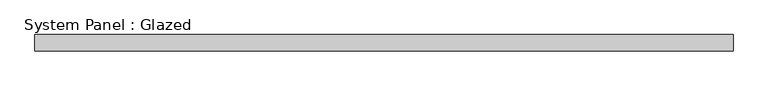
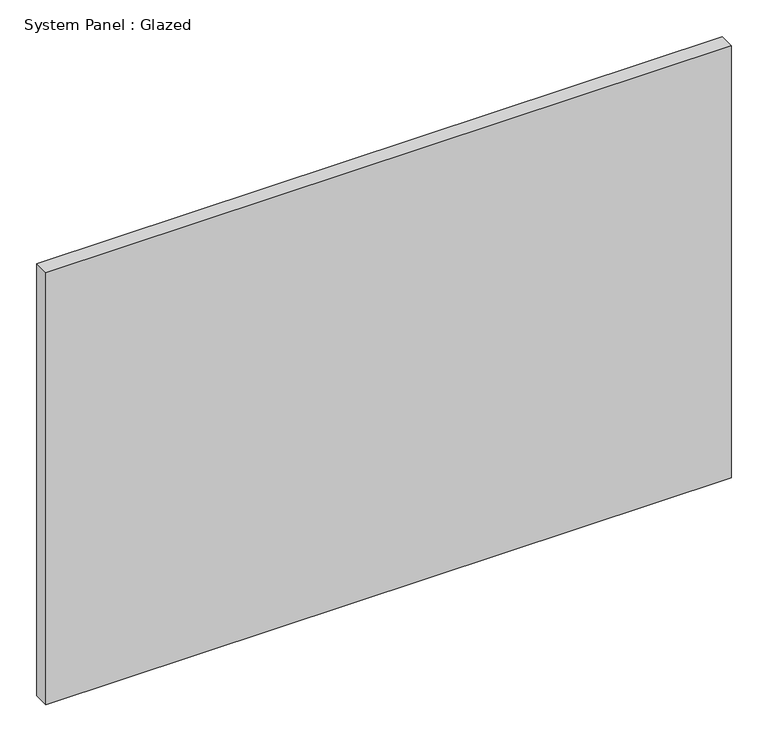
"""IFC4 building model written with IfcOpenShell, lengths in millimetres: plate geometry, System Panel : Glazed."""

from ifc_helpers import new_model, si_unit, origin, origin_with_axes, place, context, project, spatial, polyline, outline, extrude, source, transform, mapped, element, save


def system_panel_glazed_d5e78176(model_context):
    return source(origin(), model_context, "Body", "SweptSolid", [
        extrude(outline(polyline([(541.655, -44.45), (-541.655, -44.45), (-541.655, -19.05), (541.655, -19.05), (541.655, -44.45)])), origin_with_axes(), (0.0, 0.0, 1.0), 721.8891834),
    ])


if __name__ == "__main__":
    model = new_model("IFC4")
    model_context = context("Model", 3, world=origin())
    ifc_project = project(units=[si_unit("LENGTHUNIT", "METRE", prefix="MILLI")], contexts=[model_context])
    site = spatial("IfcSite", under=ifc_project)
    building = spatial("IfcBuilding", under=site)
    placement = place(None, origin())
    system_panel_glazed_shape = system_panel_glazed_d5e78176(model_context)
    element("IfcPlate", 1, ObjectType="System Panel : Glazed", at=placement, inside=building, context=model_context, shape_type="MappedRepresentation", body=[
        mapped(system_panel_glazed_shape, transform((0.0, 0.0, 0.0), x_axis=(1.0, 0.0, 0.0), y_axis=(0.0, 1.0, 0.0), z_axis=(0.0, 0.0, 1.0))),
    ])
    save(model, "model.ifc")
